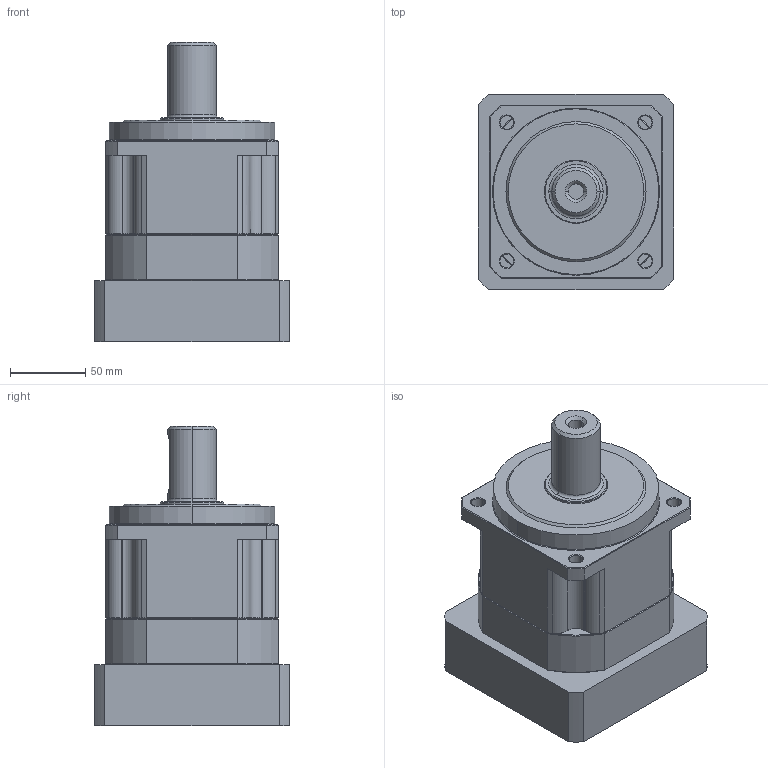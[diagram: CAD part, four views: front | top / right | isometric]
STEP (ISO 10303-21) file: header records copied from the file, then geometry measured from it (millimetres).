
FILE_DESCRIPTION (( 'STEP AP214' ), '1' );
FILE_NAME ('PAB-115-L1-S2-P1 24-110-145-M8.STEP', '2023-08-24T08:54:29', ( '微软用户' ), ( '微软中国' ), 'SwSTEP 2.0', 'SolidWorks 2018', '' );
FILE_SCHEMA (( 'AUTOMOTIVE_DESIGN' ));
Length unit declared in the file: millimetre
Products named in the file (1): PAB-115-L1-S2-P1 24-110-145-M8
Bounding box: 130 x 130 x 198.5 mm (x, y, z)
Volume: 1794682.6 mm3; surface area: 125733.1 mm2
Topology: 1 solids, 1 shells, 187 faces, 431 edges, 260 vertices
Faces by surface type: cylinder 71, plane 60, cone 54, torus 2
Entity records: 5423 total; most frequent: CARTESIAN_POINT 1046, DIRECTION 979, ORIENTED_EDGE 862, EDGE_CURVE 431, AXIS2_PLACEMENT_3D 395, VERTEX_POINT 260, EDGE_LOOP 209, CIRCLE 207
